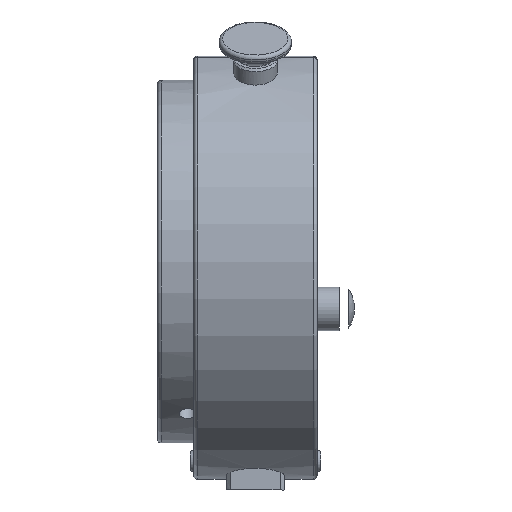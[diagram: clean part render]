
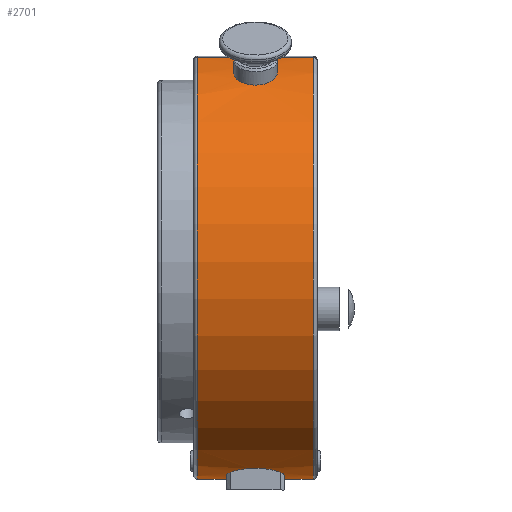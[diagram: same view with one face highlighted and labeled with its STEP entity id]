
A CAD part, left-side view. The second image highlights one B-rep face of the part: STEP entity #2701.
In plain terms, the highlighted cylindrical face has radius 30 mm (diameter 60 mm), a partial arc.
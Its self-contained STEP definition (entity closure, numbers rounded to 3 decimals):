
#93=B_SPLINE_CURVE_WITH_KNOTS('',3,(#5275,#5276,#5277,#5278,#5279,#5280,
#5281,#5282,#5283,#5284,#5285,#5286,#5287,#5288,#5289,#5290,#5291,#5292,
#5293),.UNSPECIFIED.,.F.,.F.,(4,2,2,2,3,2,2,2,4),(1.81,1.961,
2.112,2.263,2.414,2.565,2.716,
2.866,3.017),.UNSPECIFIED.);
#94=B_SPLINE_CURVE_WITH_KNOTS('',3,(#5342,#5343,#5344,#5345,#5346,#5347,
#5348,#5349,#5350,#5351,#5352,#5353,#5354,#5355,#5356,#5357,#5358,#5359,
#5360,#5361,#5362,#5363,#5364,#5365,#5366,#5367,#5368,#5369,#5370,#5371,
#5372,#5373),.UNSPECIFIED.,.F.,.F.,(4,2,2,2,2,2,2,2,2,2,2,2,2,2,2,4),(0.,
0.113,0.226,0.339,0.452,
0.565,0.679,0.792,0.905,
1.018,1.131,1.244,1.357,1.47,
1.583,1.686),.UNSPECIFIED.);
#95=B_SPLINE_CURVE_WITH_KNOTS('',3,(#5374,#5375,#5376,#5377,#5378,#5379),
 .UNSPECIFIED.,.F.,.F.,(4,2,4),(1.686,1.696,1.809),
 .UNSPECIFIED.);
#147=CYLINDRICAL_SURFACE('',#3009,30.);
#193=FACE_BOUND('',#538,.T.);
#361=FACE_OUTER_BOUND('',#537,.T.);
#537=EDGE_LOOP('',(#2303,#2304,#2305,#2306,#2307,#2308,#2309,#2310,#2311,
#2312));
#538=EDGE_LOOP('',(#2313,#2314));
#695=LINE('',#5198,#838);
#699=LINE('',#5246,#842);
#703=LINE('',#5339,#846);
#838=VECTOR('',#3627,10.);
#842=VECTOR('',#3641,10.);
#846=VECTOR('',#3711,10.);
#949=CIRCLE('',#2924,30.);
#971=CIRCLE('',#2969,30.);
#978=CIRCLE('',#2980,30.);
#991=CIRCLE('',#2998,30.);
#999=CIRCLE('',#3010,30.);
#1000=CIRCLE('',#3011,30.);
#1191=VERTEX_POINT('',#4878);
#1202=VERTEX_POINT('',#4902);
#1209=VERTEX_POINT('',#4926);
#1227=VERTEX_POINT('',#5189);
#1229=VERTEX_POINT('',#5195);
#1235=VERTEX_POINT('',#5243);
#1236=VERTEX_POINT('',#5248);
#1239=VERTEX_POINT('',#5274);
#1247=VERTEX_POINT('',#5317);
#1253=VERTEX_POINT('',#5336);
#1254=VERTEX_POINT('',#5340);
#1255=VERTEX_POINT('',#5341);
#1527=EDGE_CURVE('',#1209,#1202,#949,.T.);
#1573=EDGE_CURVE('',#1191,#1227,#971,.T.);
#1577=EDGE_CURVE('',#1229,#1209,#695,.T.);
#1585=EDGE_CURVE('',#1227,#1235,#699,.T.);
#1586=EDGE_CURVE('',#1236,#1202,#978,.T.);
#1590=EDGE_CURVE('',#1239,#1236,#93,.T.);
#1604=EDGE_CURVE('',#1247,#1229,#991,.T.);
#1612=EDGE_CURVE('',#1235,#1253,#999,.T.);
#1613=EDGE_CURVE('',#1191,#1239,#1000,.T.);
#1614=EDGE_CURVE('',#1253,#1247,#703,.T.);
#1615=EDGE_CURVE('',#1254,#1255,#94,.T.);
#1616=EDGE_CURVE('',#1255,#1254,#95,.T.);
#2303=ORIENTED_EDGE('',*,*,#1612,.F.);
#2304=ORIENTED_EDGE('',*,*,#1585,.F.);
#2305=ORIENTED_EDGE('',*,*,#1573,.F.);
#2306=ORIENTED_EDGE('',*,*,#1613,.T.);
#2307=ORIENTED_EDGE('',*,*,#1590,.T.);
#2308=ORIENTED_EDGE('',*,*,#1586,.T.);
#2309=ORIENTED_EDGE('',*,*,#1527,.F.);
#2310=ORIENTED_EDGE('',*,*,#1577,.F.);
#2311=ORIENTED_EDGE('',*,*,#1604,.F.);
#2312=ORIENTED_EDGE('',*,*,#1614,.F.);
#2313=ORIENTED_EDGE('',*,*,#1615,.T.);
#2314=ORIENTED_EDGE('',*,*,#1616,.T.);
#2701=ADVANCED_FACE('',(#361,#193),#147,.T.);
#2924=AXIS2_PLACEMENT_3D('',#4927,#3509,#3510);
#2969=AXIS2_PLACEMENT_3D('',#5190,#3617,#3618);
#2980=AXIS2_PLACEMENT_3D('',#5249,#3644,#3645);
#2998=AXIS2_PLACEMENT_3D('',#5319,#3683,#3684);
#3009=AXIS2_PLACEMENT_3D('',#5335,#3705,#3706);
#3010=AXIS2_PLACEMENT_3D('',#5337,#3707,#3708);
#3011=AXIS2_PLACEMENT_3D('',#5338,#3709,#3710);
#3509=DIRECTION('center_axis',(0.,1.,0.));
#3510=DIRECTION('ref_axis',(-0.342,0.,0.94));
#3617=DIRECTION('center_axis',(0.,-1.,0.));
#3618=DIRECTION('ref_axis',(-0.342,0.,0.94));
#3627=DIRECTION('',(0.,1.,0.));
#3641=DIRECTION('',(0.,1.,0.));
#3644=DIRECTION('center_axis',(0.,-1.,0.));
#3645=DIRECTION('ref_axis',(-0.342,0.,0.94));
#3683=DIRECTION('center_axis',(0.,-1.,0.));
#3684=DIRECTION('ref_axis',(-0.985,0.,-0.174));
#3705=DIRECTION('center_axis',(0.,1.,0.));
#3706=DIRECTION('ref_axis',(-0.342,0.,0.94));
#3707=DIRECTION('center_axis',(0.,1.,0.));
#3708=DIRECTION('ref_axis',(-0.985,0.,-0.174));
#3709=DIRECTION('center_axis',(0.,1.,0.));
#3710=DIRECTION('ref_axis',(-0.342,0.,0.94));
#3711=DIRECTION('',(0.,-1.,0.));
#4878=CARTESIAN_POINT('',(-3.4,20.5,-29.807));
#4902=CARTESIAN_POINT('',(-3.4,12.5,-29.807));
#4926=CARTESIAN_POINT('',(0.,12.5,-30.));
#4927=CARTESIAN_POINT('Origin',(0.,12.5,0.));
#5189=CARTESIAN_POINT('',(0.,20.5,-30.));
#5190=CARTESIAN_POINT('Origin',(0.,20.5,0.));
#5195=CARTESIAN_POINT('',(0.,8.5,-30.));
#5198=CARTESIAN_POINT('',(0.,8.,-30.));
#5243=CARTESIAN_POINT('',(0.,24.5,-30.));
#5246=CARTESIAN_POINT('',(0.,8.,-30.));
#5248=CARTESIAN_POINT('',(-5.455,12.5,-29.5));
#5249=CARTESIAN_POINT('Origin',(0.,12.5,0.));
#5274=CARTESIAN_POINT('',(-5.455,20.5,-29.5));
#5275=CARTESIAN_POINT('Ctrl Pts',(-5.455,20.5,-29.5));
#5276=CARTESIAN_POINT('Ctrl Pts',(-5.949,20.5,-29.409));
#5277=CARTESIAN_POINT('Ctrl Pts',(-6.474,20.399,-29.297));
#5278=CARTESIAN_POINT('Ctrl Pts',(-7.433,19.991,-29.069));
#5279=CARTESIAN_POINT('Ctrl Pts',(-7.869,19.683,-28.952));
#5280=CARTESIAN_POINT('Ctrl Pts',(-8.554,18.974,-28.757));
#5281=CARTESIAN_POINT('Ctrl Pts',(-8.85,18.524,-28.666));
#5282=CARTESIAN_POINT('Ctrl Pts',(-9.243,17.539,-28.541));
#5283=CARTESIAN_POINT('Ctrl Pts',(-9.339,17.003,-28.509));
#5284=CARTESIAN_POINT('Ctrl Pts',(-9.339,16.5,-28.509));
#5285=CARTESIAN_POINT('Ctrl Pts',(-9.339,15.997,-28.509));
#5286=CARTESIAN_POINT('Ctrl Pts',(-9.243,15.461,-28.541));
#5287=CARTESIAN_POINT('Ctrl Pts',(-8.85,14.476,-28.666));
#5288=CARTESIAN_POINT('Ctrl Pts',(-8.554,14.026,-28.757));
#5289=CARTESIAN_POINT('Ctrl Pts',(-7.869,13.317,-28.952));
#5290=CARTESIAN_POINT('Ctrl Pts',(-7.433,13.009,-29.069));
#5291=CARTESIAN_POINT('Ctrl Pts',(-6.474,12.601,-29.297));
#5292=CARTESIAN_POINT('Ctrl Pts',(-5.949,12.5,-29.409));
#5293=CARTESIAN_POINT('Ctrl Pts',(-5.455,12.5,-29.5));
#5317=CARTESIAN_POINT('',(-10.261,8.5,28.191));
#5319=CARTESIAN_POINT('Origin',(0.,8.5,0.));
#5335=CARTESIAN_POINT('Origin',(0.,8.,0.));
#5336=CARTESIAN_POINT('',(-10.261,24.5,28.191));
#5337=CARTESIAN_POINT('Origin',(0.,24.5,0.));
#5338=CARTESIAN_POINT('Origin',(0.,20.5,0.));
#5339=CARTESIAN_POINT('',(-10.261,8.,28.191));
#5340=CARTESIAN_POINT('',(-12.327,16.5,27.351));
#5341=CARTESIAN_POINT('',(-12.576,17.75,27.237));
#5342=CARTESIAN_POINT('Ctrl Pts',(-12.327,16.5,27.351));
#5343=CARTESIAN_POINT('Ctrl Pts',(-12.327,16.123,27.351));
#5344=CARTESIAN_POINT('Ctrl Pts',(-12.396,15.721,27.32));
#5345=CARTESIAN_POINT('Ctrl Pts',(-12.675,14.982,27.191));
#5346=CARTESIAN_POINT('Ctrl Pts',(-12.885,14.645,27.093));
#5347=CARTESIAN_POINT('Ctrl Pts',(-13.365,14.112,26.86));
#5348=CARTESIAN_POINT('Ctrl Pts',(-13.667,13.882,26.708));
#5349=CARTESIAN_POINT('Ctrl Pts',(-14.322,13.575,26.363));
#5350=CARTESIAN_POINT('Ctrl Pts',(-14.674,13.5,26.169));
#5351=CARTESIAN_POINT('Ctrl Pts',(-15.326,13.5,25.792));
#5352=CARTESIAN_POINT('Ctrl Pts',(-15.671,13.575,25.585));
#5353=CARTESIAN_POINT('Ctrl Pts',(-16.296,13.882,25.19));
#5354=CARTESIAN_POINT('Ctrl Pts',(-16.578,14.112,25.005));
#5355=CARTESIAN_POINT('Ctrl Pts',(-17.021,14.645,24.706));
#5356=CARTESIAN_POINT('Ctrl Pts',(-17.211,14.982,24.573));
#5357=CARTESIAN_POINT('Ctrl Pts',(-17.462,15.721,24.395));
#5358=CARTESIAN_POINT('Ctrl Pts',(-17.523,16.123,24.351));
#5359=CARTESIAN_POINT('Ctrl Pts',(-17.523,16.877,24.351));
#5360=CARTESIAN_POINT('Ctrl Pts',(-17.462,17.279,24.395));
#5361=CARTESIAN_POINT('Ctrl Pts',(-17.211,18.018,24.573));
#5362=CARTESIAN_POINT('Ctrl Pts',(-17.021,18.355,24.706));
#5363=CARTESIAN_POINT('Ctrl Pts',(-16.578,18.888,25.005));
#5364=CARTESIAN_POINT('Ctrl Pts',(-16.296,19.118,25.19));
#5365=CARTESIAN_POINT('Ctrl Pts',(-15.671,19.425,25.585));
#5366=CARTESIAN_POINT('Ctrl Pts',(-15.326,19.5,25.792));
#5367=CARTESIAN_POINT('Ctrl Pts',(-14.674,19.5,26.169));
#5368=CARTESIAN_POINT('Ctrl Pts',(-14.322,19.425,26.363));
#5369=CARTESIAN_POINT('Ctrl Pts',(-13.667,19.118,26.708));
#5370=CARTESIAN_POINT('Ctrl Pts',(-13.365,18.888,26.86));
#5371=CARTESIAN_POINT('Ctrl Pts',(-12.908,18.38,27.082));
#5372=CARTESIAN_POINT('Ctrl Pts',(-12.714,18.08,27.173));
#5373=CARTESIAN_POINT('Ctrl Pts',(-12.576,17.75,27.237));
#5374=CARTESIAN_POINT('Ctrl Pts',(-12.576,17.75,27.237));
#5375=CARTESIAN_POINT('Ctrl Pts',(-12.562,17.717,27.243));
#5376=CARTESIAN_POINT('Ctrl Pts',(-12.549,17.683,27.249));
#5377=CARTESIAN_POINT('Ctrl Pts',(-12.396,17.279,27.32));
#5378=CARTESIAN_POINT('Ctrl Pts',(-12.327,16.877,27.351));
#5379=CARTESIAN_POINT('Ctrl Pts',(-12.327,16.5,27.351));
